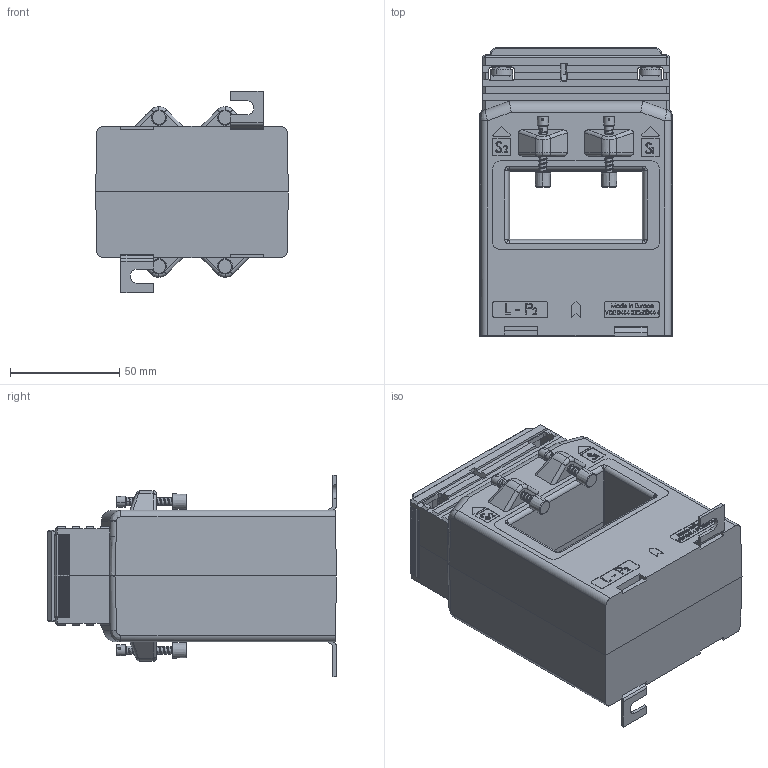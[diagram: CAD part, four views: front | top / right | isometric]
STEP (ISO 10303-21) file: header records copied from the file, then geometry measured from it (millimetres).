
FILE_DESCRIPTION (( 'STEP AP214' ), '1' );
FILE_NAME ('EASK63_6_kpl.STEP', '2011-11-02T09:46:06', ( ' ' ), ( '' ), 'SwSTEP 2.0', 'SolidWorks 2010', '' );
FILE_SCHEMA (( 'AUTOMOTIVE_DESIGN' ));
Length unit declared in the file: millimetre
Products named in the file (10): Verschlussklappe_38mm; Fusswinkel_1,5; MBS_WN-003_04_Klemme_WN-003_02; Linsenschraube DIN 7985 4.8 VZ M 5 x 10; Plastite_Schraube_30_mit-Gewinde; Isolierschutzkappe; ASK61.4-14_Plombierplatte; ASK63_6_Gehäuseschale; ASK63_6_Gehäuseschale_Halbschale_01; EASK63_6_kpl
Assembly tree (21 placements, depth 2):
  EASK63_6_kpl
    Linsenschraube DIN 7985 4.8 VZ M 5 x 10  x4
    Fusswinkel_1,5  x2
    Plastite_Schraube_30_mit-Gewinde  x4
    MBS_WN-003_04_Klemme_WN-003_02  x2
    Verschlussklappe_38mm  x2
    Isolierschutzkappe  x4
    ASK63_6_Gehäuseschale
    ASK61.4-14_Plombierplatte
    ASK63_6_Gehäuseschale_Halbschale_01
Bounding box: 88 x 132 x 92 mm (x, y, z)
Volume: 519709.7 mm3; surface area: 97631.2 mm2
Topology: 21 solids, 21 shells, 2031 faces, 5256 edges, 3394 vertices
Faces by surface type: plane 1239, bspline 352, cylinder 330, cone 78, sphere 16, torus 16
Entity records: 70679 total; most frequent: CARTESIAN_POINT 32125, ORIENTED_EDGE 8620, DIRECTION 6511, EDGE_CURVE 4310, VECTOR 3103, LINE 3103, VERTEX_POINT 2818, EDGE_LOOP 1786
